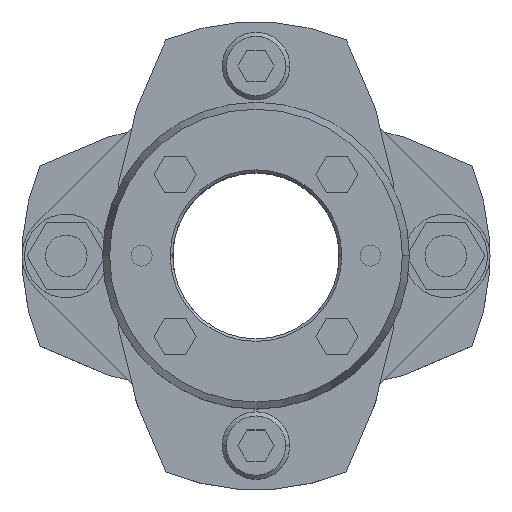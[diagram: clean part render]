
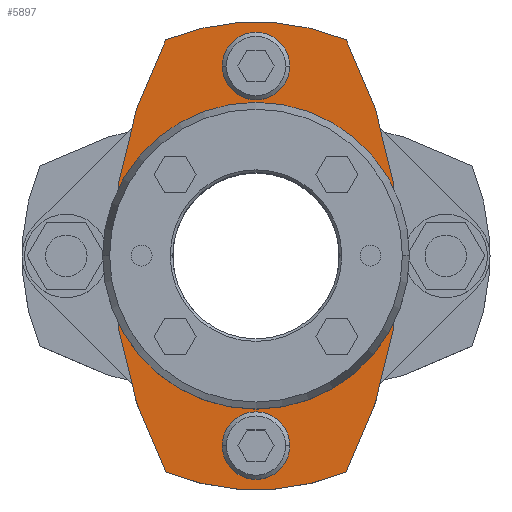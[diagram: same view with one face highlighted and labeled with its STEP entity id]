
A CAD part, top view. The second image highlights one B-rep face of the part: STEP entity #5897.
In plain terms, the highlighted planar face has unit normal (0, 0, 1).
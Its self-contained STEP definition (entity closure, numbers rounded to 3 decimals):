
#771=CARTESIAN_POINT('',(27.5,0.,14.25));
#772=VERTEX_POINT('',#771);
#781=CARTESIAN_POINT('',(17.35,-41.521,14.25));
#782=VERTEX_POINT('',#781);
#783=CARTESIAN_POINT('',(-62.5,0.,14.25));
#784=DIRECTION('',(0.0,0.0,-1.0));
#785=DIRECTION('',(-1.0,0.0,0.0));
#786=AXIS2_PLACEMENT_3D('',#783,#784,#785);
#787=CIRCLE('',#786,90.);
#788=EDGE_CURVE('',#772,#782,#787,.T.);
#815=CARTESIAN_POINT('',(-27.5,0.,14.25));
#816=VERTEX_POINT('',#815);
#832=CARTESIAN_POINT('',(-17.35,-41.521,14.25));
#833=VERTEX_POINT('',#832);
#840=CARTESIAN_POINT('',(62.5,0.,14.25));
#841=DIRECTION('',(0.0,0.0,-1.0));
#842=DIRECTION('',(-1.0,0.0,0.0));
#843=AXIS2_PLACEMENT_3D('',#840,#841,#842);
#844=CIRCLE('',#843,90.);
#845=EDGE_CURVE('',#833,#816,#844,.T.);
#1079=CARTESIAN_POINT('',(-26.,0.,14.25));
#1080=VERTEX_POINT('',#1079);
#1130=CARTESIAN_POINT('',(26.,0.,14.25));
#1131=VERTEX_POINT('',#1130);
#1138=CARTESIAN_POINT('',(0.,0.,14.25));
#1139=DIRECTION('',(0.0,0.0,-1.0));
#1140=DIRECTION('',(-1.0,0.0,0.0));
#1141=AXIS2_PLACEMENT_3D('',#1138,#1139,#1140);
#1142=CIRCLE('',#1141,26.0);
#1143=EDGE_CURVE('',#1080,#1131,#1142,.T.);
#1155=CARTESIAN_POINT('',(-6.5,-36.5,14.25));
#1156=VERTEX_POINT('',#1155);
#1172=CARTESIAN_POINT('',(6.5,-36.5,14.25));
#1173=VERTEX_POINT('',#1172);
#1180=CARTESIAN_POINT('',(0.,-36.5,14.25));
#1181=DIRECTION('',(0.0,0.0,-1.0));
#1182=DIRECTION('',(-1.0,0.0,0.0));
#1183=AXIS2_PLACEMENT_3D('',#1180,#1181,#1182);
#1184=CIRCLE('',#1183,6.5);
#1185=EDGE_CURVE('',#1156,#1173,#1184,.T.);
#1229=CARTESIAN_POINT('',(-6.5,36.5,14.25));
#1230=VERTEX_POINT('',#1229);
#1246=CARTESIAN_POINT('',(6.5,36.5,14.25));
#1247=VERTEX_POINT('',#1246);
#1254=CARTESIAN_POINT('',(0.,36.5,14.25));
#1255=DIRECTION('',(0.0,0.0,-1.0));
#1256=DIRECTION('',(-1.0,0.0,0.0));
#1257=AXIS2_PLACEMENT_3D('',#1254,#1255,#1256);
#1258=CIRCLE('',#1257,6.5);
#1259=EDGE_CURVE('',#1230,#1247,#1258,.T.);
#5316=CARTESIAN_POINT('',(0.,36.5,14.25));
#5317=DIRECTION('',(0.0,0.0,-1.0));
#5318=DIRECTION('',(-1.0,0.0,0.0));
#5319=AXIS2_PLACEMENT_3D('',#5316,#5317,#5318);
#5320=CIRCLE('',#5319,6.5);
#5321=EDGE_CURVE('',#1247,#1230,#5320,.T.);
#5376=CARTESIAN_POINT('',(0.,-36.5,14.25));
#5377=DIRECTION('',(0.0,0.0,-1.0));
#5378=DIRECTION('',(-1.0,0.0,0.0));
#5379=AXIS2_PLACEMENT_3D('',#5376,#5377,#5378);
#5380=CIRCLE('',#5379,6.5);
#5381=EDGE_CURVE('',#1173,#1156,#5380,.T.);
#5580=CARTESIAN_POINT('',(0.,0.,14.25));
#5581=DIRECTION('',(0.0,0.0,-1.0));
#5582=DIRECTION('',(-1.0,0.0,0.0));
#5583=AXIS2_PLACEMENT_3D('',#5580,#5581,#5582);
#5584=CIRCLE('',#5583,26.0);
#5585=EDGE_CURVE('',#1131,#1080,#5584,.T.);
#5791=CARTESIAN_POINT('',(0.,0.,14.25));
#5792=DIRECTION('',(0.0,0.0,-1.0));
#5793=DIRECTION('',(-1.0,0.0,0.0));
#5794=AXIS2_PLACEMENT_3D('',#5791,#5792,#5793);
#5795=CIRCLE('',#5794,45.);
#5796=EDGE_CURVE('',#782,#833,#5795,.T.);
#5810=CARTESIAN_POINT('',(-17.35,41.521,14.25));
#5811=VERTEX_POINT('',#5810);
#5812=CARTESIAN_POINT('',(62.5,0.,14.25));
#5813=DIRECTION('',(0.0,0.0,-1.0));
#5814=DIRECTION('',(-1.0,0.0,0.0));
#5815=AXIS2_PLACEMENT_3D('',#5812,#5813,#5814);
#5816=CIRCLE('',#5815,90.);
#5817=EDGE_CURVE('',#816,#5811,#5816,.T.);
#5834=CARTESIAN_POINT('',(17.35,41.521,14.25));
#5835=VERTEX_POINT('',#5834);
#5836=CARTESIAN_POINT('',(0.,0.,14.25));
#5837=DIRECTION('',(0.0,0.0,-1.0));
#5838=DIRECTION('',(-1.0,0.0,0.0));
#5839=AXIS2_PLACEMENT_3D('',#5836,#5837,#5838);
#5840=CIRCLE('',#5839,45.);
#5841=EDGE_CURVE('',#5811,#5835,#5840,.T.);
#5862=CARTESIAN_POINT('',(-62.5,0.,14.25));
#5863=DIRECTION('',(0.0,0.0,-1.0));
#5864=DIRECTION('',(-1.0,0.0,0.0));
#5865=AXIS2_PLACEMENT_3D('',#5862,#5863,#5864);
#5866=CIRCLE('',#5865,90.);
#5867=EDGE_CURVE('',#5835,#772,#5866,.T.);
#5872=CARTESIAN_POINT('',(0.,0.,14.25));
#5873=DIRECTION('',(0.0,0.0,1.0));
#5874=DIRECTION('',(-1.0,0.0,0.0));
#5875=AXIS2_PLACEMENT_3D('',#5872,#5873,#5874);
#5876=PLANE('',#5875);
#5877=ORIENTED_EDGE('',*,*,#5796,.F.);
#5878=ORIENTED_EDGE('',*,*,#788,.F.);
#5879=ORIENTED_EDGE('',*,*,#5867,.F.);
#5880=ORIENTED_EDGE('',*,*,#5841,.F.);
#5881=ORIENTED_EDGE('',*,*,#5817,.F.);
#5882=ORIENTED_EDGE('',*,*,#845,.F.);
#5883=EDGE_LOOP('',(#5877,#5878,#5879,#5880,#5881,#5882));
#5884=FACE_OUTER_BOUND('',#5883,.T.);
#5885=ORIENTED_EDGE('',*,*,#1185,.T.);
#5886=ORIENTED_EDGE('',*,*,#5381,.T.);
#5887=EDGE_LOOP('',(#5885,#5886));
#5888=FACE_BOUND('',#5887,.T.);
#5889=ORIENTED_EDGE('',*,*,#1259,.T.);
#5890=ORIENTED_EDGE('',*,*,#5321,.T.);
#5891=EDGE_LOOP('',(#5889,#5890));
#5892=FACE_BOUND('',#5891,.T.);
#5893=ORIENTED_EDGE('',*,*,#1143,.T.);
#5894=ORIENTED_EDGE('',*,*,#5585,.T.);
#5895=EDGE_LOOP('',(#5893,#5894));
#5896=FACE_BOUND('',#5895,.T.);
#5897=ADVANCED_FACE('',(#5884,#5888,#5892,#5896),#5876,.T.);
